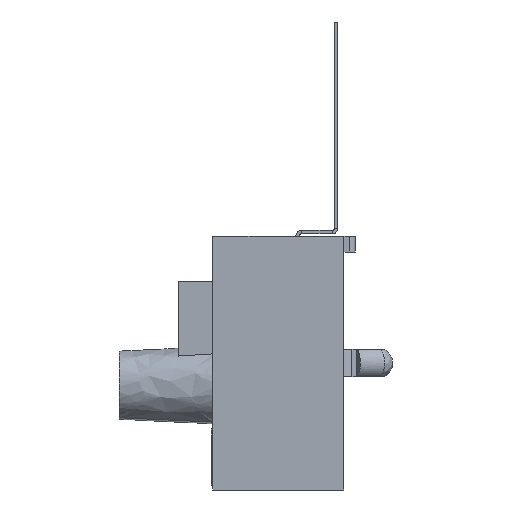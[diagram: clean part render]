
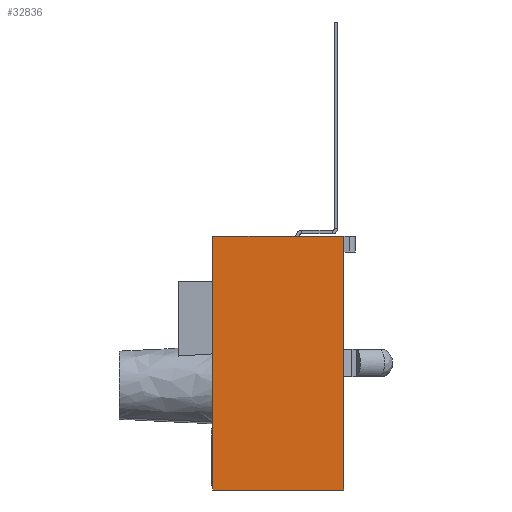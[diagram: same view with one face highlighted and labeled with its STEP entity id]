
A CAD part, left-side view. The second image highlights one B-rep face of the part: STEP entity #32836.
In plain terms, the highlighted planar face has unit normal (-1, 0, 0).
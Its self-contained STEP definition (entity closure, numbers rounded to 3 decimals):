
#13566=CARTESIAN_POINT(' ',(-14.2,-1.65,-22.3));
#13567=VERTEX_POINT(' ',#13566);
#13581=CARTESIAN_POINT(' ',(-14.2,9.85,-22.3));
#13586=DIRECTION(' ',(0.,-1.,0.));
#13591=VECTOR(' ',#13586,1.);
#13596=LINE('',#13581,#13591);
#13601=CARTESIAN_POINT(' ',(-14.2,9.85,-22.3));
#13602=VERTEX_POINT(' ',#13601);
#13606=EDGE_CURVE(' ',#13602,#13567,#13596,.T.);
#14266=CARTESIAN_POINT(' ',(-14.2,9.85,-22.3));
#14271=DIRECTION(' ',(0.,0.,1.));
#14276=VECTOR(' ',#14271,1.);
#14281=LINE('',#14266,#14276);
#14286=CARTESIAN_POINT(' ',(-14.2,9.85,0.));
#14287=VERTEX_POINT(' ',#14286);
#14291=EDGE_CURVE(' ',#13602,#14287,#14281,.T.);
#32621=CARTESIAN_POINT(' ',(-14.2,-1.65,0.));
#32626=DIRECTION(' ',(0.,0.,-1.));
#32631=VECTOR(' ',#32626,1.);
#32636=LINE('',#32621,#32631);
#32641=CARTESIAN_POINT(' ',(-14.2,-1.65,0.));
#32642=VERTEX_POINT(' ',#32641);
#32646=EDGE_CURVE(' ',#32642,#13567,#32636,.T.);
#32756=CARTESIAN_POINT(' ',(-14.2,-1.65,0.));
#32761=DIRECTION(' ',(-1.,0.,0.));
#32766=DIRECTION(' ',(0.,1.,0.));
#32771=AXIS2_PLACEMENT_3D(' ',#32756,#32761,#32766);
#32776=PLANE(' ',#32771);
#32781=ORIENTED_EDGE(' ',*,*,#13606,.T.);
#32786=ORIENTED_EDGE(' ',*,*,#32646,.F.);
#32791=CARTESIAN_POINT(' ',(-14.2,9.85,0.));
#32796=DIRECTION(' ',(0.,-1.,0.));
#32801=VECTOR(' ',#32796,1.);
#32806=LINE('',#32791,#32801);
#32811=EDGE_CURVE(' ',#14287,#32642,#32806,.T.);
#32816=ORIENTED_EDGE(' ',*,*,#32811,.F.);
#32821=ORIENTED_EDGE(' ',*,*,#14291,.F.);
#32826=EDGE_LOOP(' ',(#32781,#32786,#32816,#32821));
#32831=FACE_OUTER_BOUND(' ',#32826,.T.);
#32836=ADVANCED_FACE('',(#32831),#32776,.T.);
